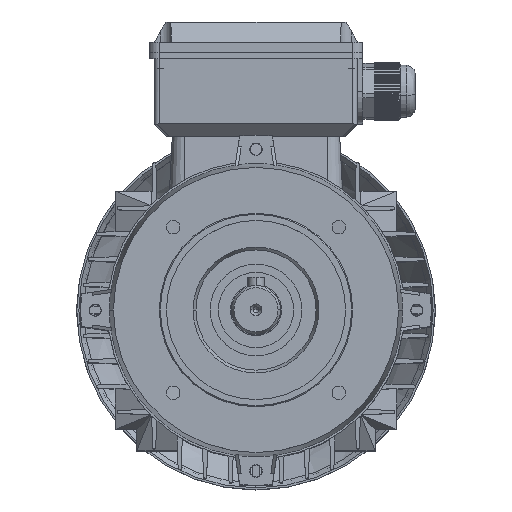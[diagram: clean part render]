
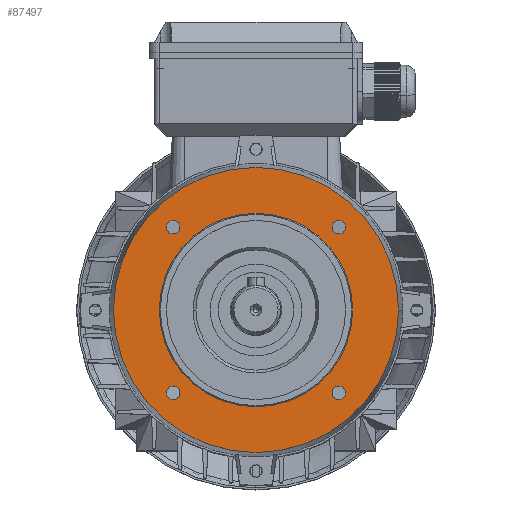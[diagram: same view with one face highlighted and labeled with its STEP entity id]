
A CAD part, top view. The second image highlights one B-rep face of the part: STEP entity #87497.
In plain terms, the highlighted planar face has unit normal (0, 0, 1).
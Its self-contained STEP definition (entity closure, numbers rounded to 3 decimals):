
#737 = PLANE ( 'NONE',  #99248 ) ;
#738 = CARTESIAN_POINT ( 'NONE',  ( -47.5, 0., 43.943 ) ) ;
#739 = DIRECTION ( 'NONE',  ( 0., 0., -1. ) ) ;
#740 = DIRECTION ( 'NONE',  ( -1., 0., 0. ) ) ;
#1342 = CARTESIAN_POINT ( 'NONE',  ( 40.659, -40.659, 43.943 ) ) ;
#1343 = DIRECTION ( 'NONE',  ( 0., 0., 1. ) ) ;
#1344 = DIRECTION ( 'NONE',  ( 1., 0., 0. ) ) ;
#1345 = CARTESIAN_POINT ( 'NONE',  ( 40.659, 40.659, 43.943 ) ) ;
#1346 = DIRECTION ( 'NONE',  ( 0., 0., 1. ) ) ;
#1347 = DIRECTION ( 'NONE',  ( 1., 0., 0. ) ) ;
#1348 = CARTESIAN_POINT ( 'NONE',  ( -40.659, 40.659, 43.943 ) ) ;
#1349 = DIRECTION ( 'NONE',  ( 0., 0., 1. ) ) ;
#1350 = DIRECTION ( 'NONE',  ( 1., 0., 0. ) ) ;
#1351 = CARTESIAN_POINT ( 'NONE',  ( -40.659, -40.659, 43.943 ) ) ;
#1352 = DIRECTION ( 'NONE',  ( 0., 0., 1. ) ) ;
#1353 = DIRECTION ( 'NONE',  ( 1., 0., 0. ) ) ;
#1354 = CARTESIAN_POINT ( 'NONE',  ( 0., 0., 43.943 ) ) ;
#1355 = DIRECTION ( 'NONE',  ( 0., 0., 1. ) ) ;
#1356 = DIRECTION ( 'NONE',  ( -1., 0., 0. ) ) ;
#1621 = CARTESIAN_POINT ( 'NONE',  ( 0., 0., 43.943 ) ) ;
#1623 = DIRECTION ( 'NONE',  ( 0., 0., -1. ) ) ;
#1625 = DIRECTION ( 'NONE',  ( -1., 0., 0. ) ) ;
#25994 = CIRCLE ( 'NONE', #98605, 70. ) ;
#26002 = CIRCLE ( 'NONE', #98614, 47.5 ) ;
#26004 = CIRCLE ( 'NONE', #98622, 3.324 ) ;
#26006 = CIRCLE ( 'NONE', #98626, 3.324 ) ;
#26008 = CIRCLE ( 'NONE', #98630, 3.324 ) ;
#26010 = CIRCLE ( 'NONE', #98634, 3.324 ) ;
#26141 = CIRCLE ( 'NONE', #99803, 3.324 ) ;
#26142 = CIRCLE ( 'NONE', #99801, 3.324 ) ;
#26143 = CIRCLE ( 'NONE', #99807, 3.324 ) ;
#26144 = CIRCLE ( 'NONE', #99809, 3.324 ) ;
#26145 = CIRCLE ( 'NONE', #99810, 47.5 ) ;
#26151 = CIRCLE ( 'NONE', #99864, 70. ) ;
#55180 = CARTESIAN_POINT ( 'NONE',  ( -70., 0., 43.943 ) ) ;
#55181 = CARTESIAN_POINT ( 'NONE',  ( 70., 0., 43.943 ) ) ;
#55204 = CARTESIAN_POINT ( 'NONE',  ( 47.5, 0., 43.943 ) ) ;
#55205 = CARTESIAN_POINT ( 'NONE',  ( -47.5, 0., 43.943 ) ) ;
#55208 = CARTESIAN_POINT ( 'NONE',  ( -43.982, -40.659, 43.943 ) ) ;
#55209 = CARTESIAN_POINT ( 'NONE',  ( -37.335, -40.659, 43.943 ) ) ;
#55212 = CARTESIAN_POINT ( 'NONE',  ( -43.982, 40.659, 43.943 ) ) ;
#55213 = CARTESIAN_POINT ( 'NONE',  ( -37.335, 40.659, 43.943 ) ) ;
#55216 = CARTESIAN_POINT ( 'NONE',  ( 37.335, 40.659, 43.943 ) ) ;
#55217 = CARTESIAN_POINT ( 'NONE',  ( 43.982, 40.659, 43.943 ) ) ;
#55220 = CARTESIAN_POINT ( 'NONE',  ( 37.335, -40.659, 43.943 ) ) ;
#55221 = CARTESIAN_POINT ( 'NONE',  ( 43.982, -40.659, 43.943 ) ) ;
#71360 = VERTEX_POINT ( 'NONE', #55180 ) ;
#71361 = VERTEX_POINT ( 'NONE', #55181 ) ;
#71384 = VERTEX_POINT ( 'NONE', #55204 ) ;
#71385 = VERTEX_POINT ( 'NONE', #55205 ) ;
#71388 = VERTEX_POINT ( 'NONE', #55208 ) ;
#71389 = VERTEX_POINT ( 'NONE', #55209 ) ;
#71392 = VERTEX_POINT ( 'NONE', #55212 ) ;
#71393 = VERTEX_POINT ( 'NONE', #55213 ) ;
#71396 = VERTEX_POINT ( 'NONE', #55216 ) ;
#71397 = VERTEX_POINT ( 'NONE', #55217 ) ;
#71400 = VERTEX_POINT ( 'NONE', #55220 ) ;
#71401 = VERTEX_POINT ( 'NONE', #55221 ) ;
#72959 = EDGE_LOOP ( 'NONE', ( #91142, #91143 ) ) ;
#72963 = EDGE_LOOP ( 'NONE', ( #91144, #91145 ) ) ;
#72965 = EDGE_LOOP ( 'NONE', ( #91146, #91147 ) ) ;
#72967 = EDGE_LOOP ( 'NONE', ( #91148, #91149 ) ) ;
#72969 = EDGE_LOOP ( 'NONE', ( #91150, #91151 ) ) ;
#72971 = EDGE_LOOP ( 'NONE', ( #91153, #91152 ) ) ;
#87071 = EDGE_CURVE ( 'NONE', #71360, #71361, #25994, .T. ) ;
#87095 = EDGE_CURVE ( 'NONE', #71384, #71385, #26002, .T. ) ;
#87099 = EDGE_CURVE ( 'NONE', #71388, #71389, #26004, .T. ) ;
#87103 = EDGE_CURVE ( 'NONE', #71392, #71393, #26006, .T. ) ;
#87107 = EDGE_CURVE ( 'NONE', #71396, #71397, #26008, .T. ) ;
#87111 = EDGE_CURVE ( 'NONE', #71400, #71401, #26010, .T. ) ;
#87497 = ADVANCED_FACE ( 'NONE', ( #99223, #99242, #99247, #99249, #99251, #99252 ), #737, .F. ) ;
#87648 = EDGE_CURVE ( 'NONE', #71401, #71400, #26141, .T. ) ;
#87649 = EDGE_CURVE ( 'NONE', #71397, #71396, #26142, .T. ) ;
#87650 = EDGE_CURVE ( 'NONE', #71393, #71392, #26143, .T. ) ;
#87651 = EDGE_CURVE ( 'NONE', #71389, #71388, #26144, .T. ) ;
#87652 = EDGE_CURVE ( 'NONE', #71385, #71384, #26145, .T. ) ;
#87718 = EDGE_CURVE ( 'NONE', #71361, #71360, #26151, .T. ) ;
#91142 = ORIENTED_EDGE ( 'NONE', *, *, #87652, .F. ) ;
#91143 = ORIENTED_EDGE ( 'NONE', *, *, #87095, .F. ) ;
#91144 = ORIENTED_EDGE ( 'NONE', *, *, #87651, .F. ) ;
#91145 = ORIENTED_EDGE ( 'NONE', *, *, #87099, .F. ) ;
#91146 = ORIENTED_EDGE ( 'NONE', *, *, #87650, .F. ) ;
#91147 = ORIENTED_EDGE ( 'NONE', *, *, #87103, .F. ) ;
#91148 = ORIENTED_EDGE ( 'NONE', *, *, #87649, .F. ) ;
#91149 = ORIENTED_EDGE ( 'NONE', *, *, #87107, .F. ) ;
#91150 = ORIENTED_EDGE ( 'NONE', *, *, #87071, .F. ) ;
#91151 = ORIENTED_EDGE ( 'NONE', *, *, #87718, .F. ) ;
#91152 = ORIENTED_EDGE ( 'NONE', *, *, #87111, .F. ) ;
#91153 = ORIENTED_EDGE ( 'NONE', *, *, #87648, .F. ) ;
#96884 = CARTESIAN_POINT ( 'NONE',  ( 0., 0., 43.943 ) ) ;
#96898 = DIRECTION ( 'NONE',  ( 0., 0., -1. ) ) ;
#96900 = DIRECTION ( 'NONE',  ( -1., 0., 0. ) ) ;
#97067 = CARTESIAN_POINT ( 'NONE',  ( 0., 0., 43.943 ) ) ;
#97069 = DIRECTION ( 'NONE',  ( 0., 0., 1. ) ) ;
#97071 = DIRECTION ( 'NONE',  ( -1., 0., 0. ) ) ;
#97091 = CARTESIAN_POINT ( 'NONE',  ( -40.659, -40.659, 43.943 ) ) ;
#97093 = DIRECTION ( 'NONE',  ( 0., 0., 1. ) ) ;
#97095 = DIRECTION ( 'NONE',  ( 1., 0., 0. ) ) ;
#97115 = CARTESIAN_POINT ( 'NONE',  ( -40.659, 40.659, 43.943 ) ) ;
#97117 = DIRECTION ( 'NONE',  ( 0., 0., 1. ) ) ;
#97119 = DIRECTION ( 'NONE',  ( 1., 0., 0. ) ) ;
#97139 = CARTESIAN_POINT ( 'NONE',  ( 40.659, 40.659, 43.943 ) ) ;
#97141 = DIRECTION ( 'NONE',  ( 0., 0., 1. ) ) ;
#97143 = DIRECTION ( 'NONE',  ( 1., 0., 0. ) ) ;
#97163 = CARTESIAN_POINT ( 'NONE',  ( 40.659, -40.659, 43.943 ) ) ;
#97165 = DIRECTION ( 'NONE',  ( 0., 0., 1. ) ) ;
#97167 = DIRECTION ( 'NONE',  ( 1., 0., 0. ) ) ;
#98605 = AXIS2_PLACEMENT_3D ( 'NONE', #96884, #96898, #96900 ) ;
#98614 = AXIS2_PLACEMENT_3D ( 'NONE', #97067, #97069, #97071 ) ;
#98622 = AXIS2_PLACEMENT_3D ( 'NONE', #97091, #97093, #97095 ) ;
#98626 = AXIS2_PLACEMENT_3D ( 'NONE', #97115, #97117, #97119 ) ;
#98630 = AXIS2_PLACEMENT_3D ( 'NONE', #97139, #97141, #97143 ) ;
#98634 = AXIS2_PLACEMENT_3D ( 'NONE', #97163, #97165, #97167 ) ;
#99223 = FACE_BOUND ( 'NONE', #72959, .T. ) ;
#99242 = FACE_BOUND ( 'NONE', #72963, .T. ) ;
#99247 = FACE_BOUND ( 'NONE', #72965, .T. ) ;
#99248 = AXIS2_PLACEMENT_3D ( 'NONE', #738, #739, #740 ) ;
#99249 = FACE_BOUND ( 'NONE', #72967, .T. ) ;
#99251 = FACE_OUTER_BOUND ( 'NONE', #72969, .T. ) ;
#99252 = FACE_BOUND ( 'NONE', #72971, .T. ) ;
#99801 = AXIS2_PLACEMENT_3D ( 'NONE', #1345, #1346, #1347 ) ;
#99803 = AXIS2_PLACEMENT_3D ( 'NONE', #1342, #1343, #1344 ) ;
#99807 = AXIS2_PLACEMENT_3D ( 'NONE', #1348, #1349, #1350 ) ;
#99809 = AXIS2_PLACEMENT_3D ( 'NONE', #1351, #1352, #1353 ) ;
#99810 = AXIS2_PLACEMENT_3D ( 'NONE', #1354, #1355, #1356 ) ;
#99864 = AXIS2_PLACEMENT_3D ( 'NONE', #1621, #1623, #1625 ) ;
